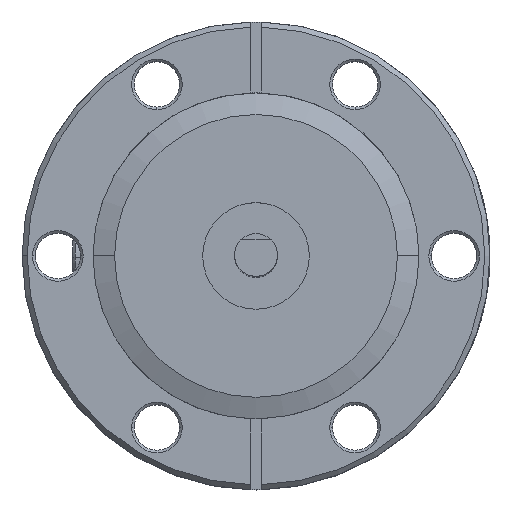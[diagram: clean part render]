
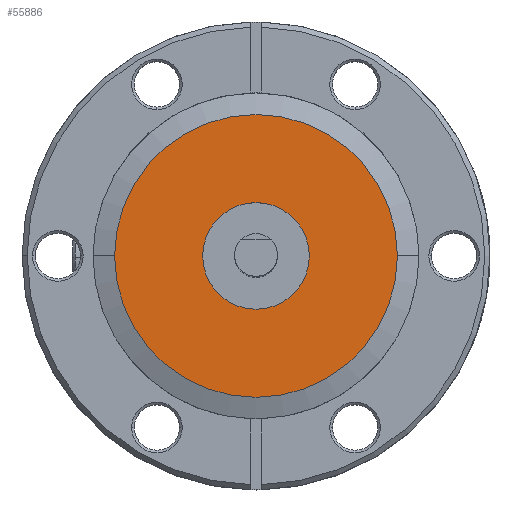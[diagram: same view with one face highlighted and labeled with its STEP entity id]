
A CAD part, top view. The second image highlights one B-rep face of the part: STEP entity #55886.
In plain terms, the highlighted planar face has unit normal (0, 0, 1).
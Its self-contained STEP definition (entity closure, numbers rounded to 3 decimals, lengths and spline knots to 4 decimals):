
#2956 = CARTESIAN_POINT ( 'NONE',  ( 0., 0., -0.1295 ) ) ;
#2958 = DIRECTION ( 'NONE',  ( 0., 0., -1. ) ) ;
#2960 = DIRECTION ( 'NONE',  ( 0., -1., 0. ) ) ;
#3535 = CIRCLE ( 'NONE', #26317, 0.7899 ) ;
#4207 = FACE_OUTER_BOUND ( 'NONE', #64166, .T. ) ;
#4220 = FACE_BOUND ( 'NONE', #40672, .T. ) ;
#12040 = CARTESIAN_POINT ( 'NONE',  ( 0., 0., -0.1295 ) ) ;
#12041 = DIRECTION ( 'NONE',  ( 0., 0., 1. ) ) ;
#12042 = DIRECTION ( 'NONE',  ( 0., 1., 0. ) ) ;
#25000 = VERTEX_POINT ( 'NONE', #54851 ) ;
#25812 = AXIS2_PLACEMENT_3D ( 'NONE', #45167, #45168, #45169 ) ;
#26317 = AXIS2_PLACEMENT_3D ( 'NONE', #2956, #2958, #2960 ) ;
#26962 = CIRCLE ( 'NONE', #25812, 2.0955 ) ;
#28152 = CARTESIAN_POINT ( 'NONE',  ( 0., -2.0955, -0.1295 ) ) ;
#28886 = CARTESIAN_POINT ( 'NONE',  ( 0., -0.7899, -0.1295 ) ) ;
#29508 = CARTESIAN_POINT ( 'NONE',  ( 0., 0.7899, -0.1295 ) ) ;
#31311 = EDGE_CURVE ( 'NONE', #40778, #25000, #48721, .T. ) ;
#31556 = EDGE_CURVE ( 'NONE', #41558, #41167, #35822, .T. ) ;
#35822 = CIRCLE ( 'NONE', #77988, 0.7899 ) ;
#40672 = EDGE_LOOP ( 'NONE', ( #70730, #70263 ) ) ;
#40778 = VERTEX_POINT ( 'NONE', #28152 ) ;
#41167 = VERTEX_POINT ( 'NONE', #28886 ) ;
#41558 = VERTEX_POINT ( 'NONE', #29508 ) ;
#45167 = CARTESIAN_POINT ( 'NONE',  ( 0., 0., -0.1295 ) ) ;
#45168 = DIRECTION ( 'NONE',  ( 0., 0., 1. ) ) ;
#45169 = DIRECTION ( 'NONE',  ( 0., 1., 0. ) ) ;
#48721 = CIRCLE ( 'NONE', #77908, 2.0955 ) ;
#53665 = EDGE_CURVE ( 'NONE', #25000, #40778, #26962, .T. ) ;
#54851 = CARTESIAN_POINT ( 'NONE',  ( 0., 2.0955, -0.1295 ) ) ;
#54933 = EDGE_CURVE ( 'NONE', #41167, #41558, #3535, .T. ) ;
#55886 = ADVANCED_FACE ( 'NONE', ( #4207, #4220 ), #74585, .T. ) ;
#60274 = CARTESIAN_POINT ( 'NONE',  ( 0., 0., -0.1295 ) ) ;
#60276 = DIRECTION ( 'NONE',  ( 0., 0., -1. ) ) ;
#60278 = DIRECTION ( 'NONE',  ( 0., -1., 0. ) ) ;
#64166 = EDGE_LOOP ( 'NONE', ( #70732, #70911 ) ) ;
#70263 = ORIENTED_EDGE ( 'NONE', *, *, #31556, .T. ) ;
#70730 = ORIENTED_EDGE ( 'NONE', *, *, #54933, .T. ) ;
#70732 = ORIENTED_EDGE ( 'NONE', *, *, #53665, .T. ) ;
#70911 = ORIENTED_EDGE ( 'NONE', *, *, #31311, .T. ) ;
#74575 = CARTESIAN_POINT ( 'NONE',  ( 0., 2.0955, -0.1295 ) ) ;
#74585 = PLANE ( 'NONE',  #81883 ) ;
#74590 = DIRECTION ( 'NONE',  ( 0., 0., 1. ) ) ;
#74593 = DIRECTION ( 'NONE',  ( 0., -1., 0. ) ) ;
#77908 = AXIS2_PLACEMENT_3D ( 'NONE', #12040, #12041, #12042 ) ;
#77988 = AXIS2_PLACEMENT_3D ( 'NONE', #60274, #60276, #60278 ) ;
#81883 = AXIS2_PLACEMENT_3D ( 'NONE', #74575, #74590, #74593 ) ;
